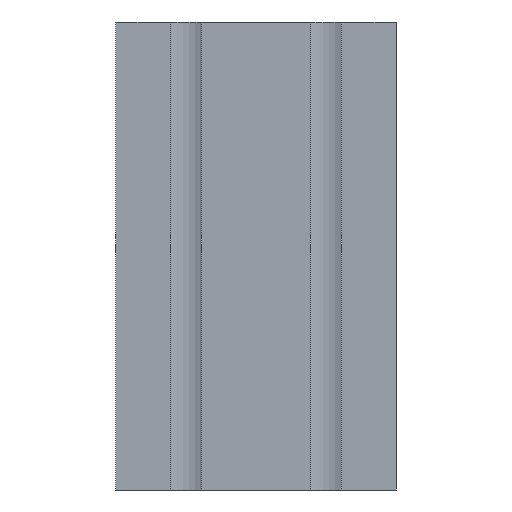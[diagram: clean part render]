
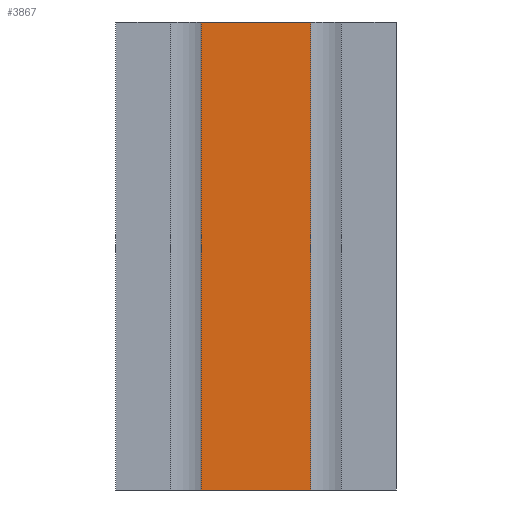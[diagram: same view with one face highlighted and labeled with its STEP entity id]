
A CAD part, front view. The second image highlights one B-rep face of the part: STEP entity #3867.
In plain terms, the highlighted planar face has unit normal (0, -1, 0).
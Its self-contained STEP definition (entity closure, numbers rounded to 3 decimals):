
#1028=ORIENTED_EDGE('',*,*,#1507,.F.);
#1029=ORIENTED_EDGE('',*,*,#1797,.T.);
#1030=ORIENTED_EDGE('',*,*,#1614,.F.);
#1031=ORIENTED_EDGE('',*,*,#1798,.F.);
#1507=EDGE_CURVE('',#2023,#2024,#2426,.T.);
#1614=EDGE_CURVE('',#2114,#2115,#2507,.T.);
#1797=EDGE_CURVE('',#2023,#2115,#2665,.T.);
#1798=EDGE_CURVE('',#2024,#2114,#2666,.T.);
#2023=VERTEX_POINT('',#5721);
#2024=VERTEX_POINT('',#5723);
#2114=VERTEX_POINT('',#5920);
#2115=VERTEX_POINT('',#5922);
#2426=LINE('',#5722,#2918);
#2507=LINE('',#5921,#2999);
#2665=LINE('',#6268,#3157);
#2666=LINE('',#6270,#3158);
#2918=VECTOR('',#4571,1000.);
#2999=VECTOR('',#4706,1000.);
#3157=VECTOR('',#5080,1000.);
#3158=VECTOR('',#5083,1000.);
#3323=EDGE_LOOP('',(#1028,#1029,#1030,#1031));
#3523=FACE_BOUND('',#3323,.T.);
#3696=PLANE('',#4142);
#3867=ADVANCED_FACE('',(#3523),#3696,.T.);
#4142=AXIS2_PLACEMENT_3D('',#6269,#5081,#5082);
#4571=DIRECTION('',(-1.,0.,0.));
#4706=DIRECTION('',(1.,0.,0.));
#5080=DIRECTION('',(0.,0.,1.));
#5081=DIRECTION('',(0.,-1.,0.));
#5082=DIRECTION('',(1.,0.,0.));
#5083=DIRECTION('',(0.,0.,1.));
#5721=CARTESIAN_POINT('',(41.75,-60.,-50.));
#5722=CARTESIAN_POINT('',(41.75,-60.,-50.));
#5723=CARTESIAN_POINT('',(18.25,-60.,-50.));
#5920=CARTESIAN_POINT('',(18.25,-60.,50.));
#5921=CARTESIAN_POINT('',(41.75,-60.,50.));
#5922=CARTESIAN_POINT('',(41.75,-60.,50.));
#6268=CARTESIAN_POINT('',(41.75,-60.,0.));
#6269=CARTESIAN_POINT('',(18.25,-60.,0.));
#6270=CARTESIAN_POINT('',(18.25,-60.,0.));
